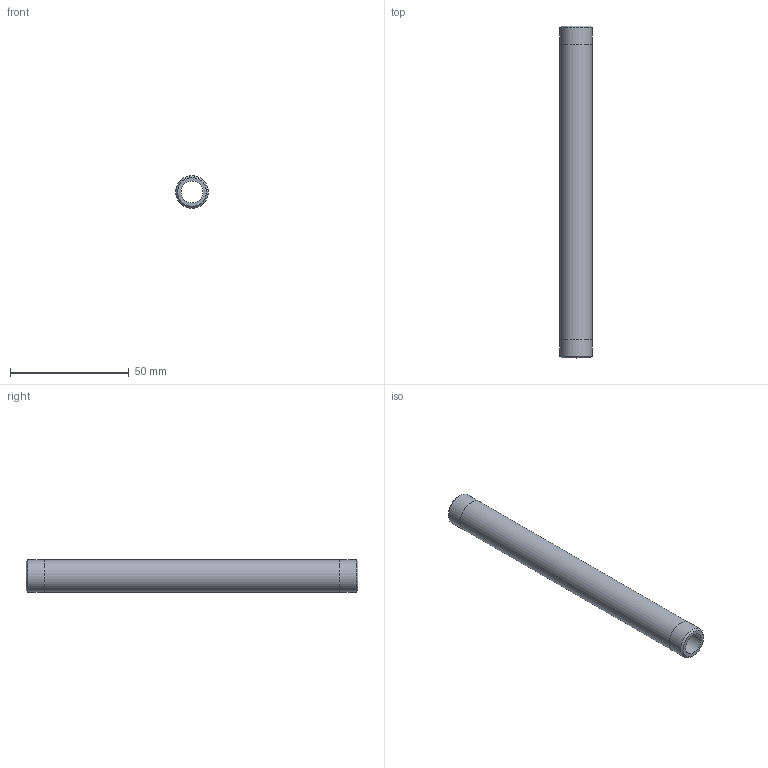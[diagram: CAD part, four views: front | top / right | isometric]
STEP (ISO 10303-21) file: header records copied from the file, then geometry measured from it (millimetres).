
FILE_DESCRIPTION(/* description */ (''),/* implementation_level */ '2;1');
FILE_NAME(/* name */ 'C:/Users/drich/Desktop/BPN14-5-1_2 v1.step',/* time_stamp */ '2020-01-03T14:37:36-06:00',/* author */ (''),/* organization */ (''),/* preprocessor_version */ 'ST-DEVELOPER v18',/* originating_system */ 'Autodesk Translation Framework v8.12.0.6',/* authorisation */ '');
FILE_SCHEMA (('AUTOMOTIVE_DESIGN { 1 0 10303 214 3 1 1 }'));
Length unit declared in the file: inch
Products named in the file (1): BPN14-5-1_2
Bounding box: 13.72 x 139.7 x 13.72 mm (x, y, z)
Volume: 11221.9 mm3; surface area: 10196.4 mm2
Topology: 1 solids, 1 shells, 10 faces, 24 edges, 18 vertices
Faces by surface type: cylinder 4, plane 4, cone 2
Full cylindrical faces by diameter (mm): 9.246 x1, 13.665 x2, 13.716 x1
Entity records: 360 total; most frequent: DIRECTION 64, CARTESIAN_POINT 53, ORIENTED_EDGE 48, AXIS2_PLACEMENT_3D 29, EDGE_CURVE 24, CIRCLE 18, VERTEX_POINT 18, EDGE_LOOP 14
